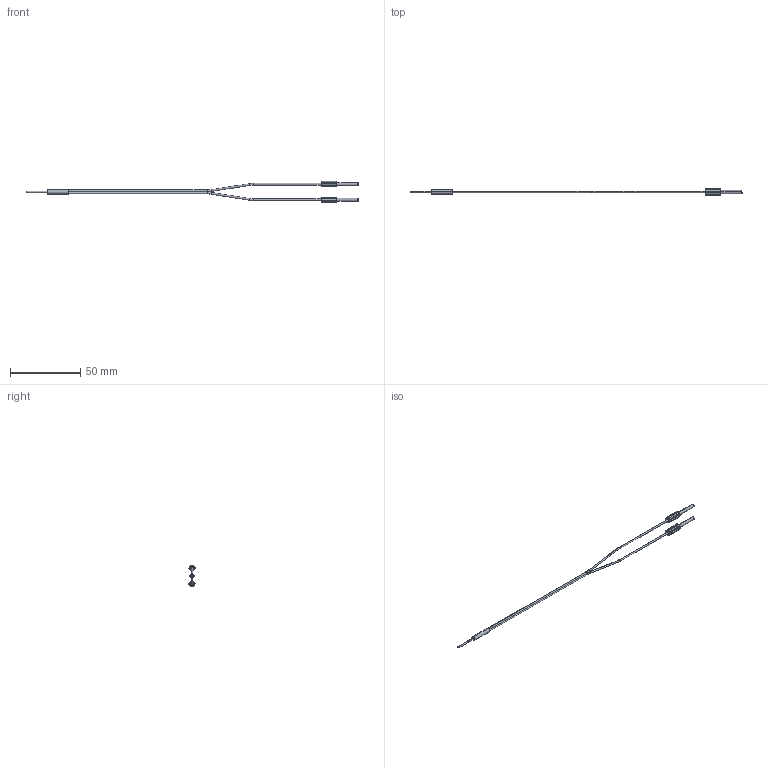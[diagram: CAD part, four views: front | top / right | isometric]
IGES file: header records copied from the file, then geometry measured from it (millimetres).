
Start section: SolidWorks IGES file using analytic representation for surfaces
Bounding box: 235.5 x 4.35 x 14.9 mm (x, y, z)
Surface area: 2175.6 mm2 (no closed solid volume)
Topology: 0 solids, 0 shells, 187 faces, 1632 edges, 1632 vertices
Faces by surface type: bspline 98, revolution 89
